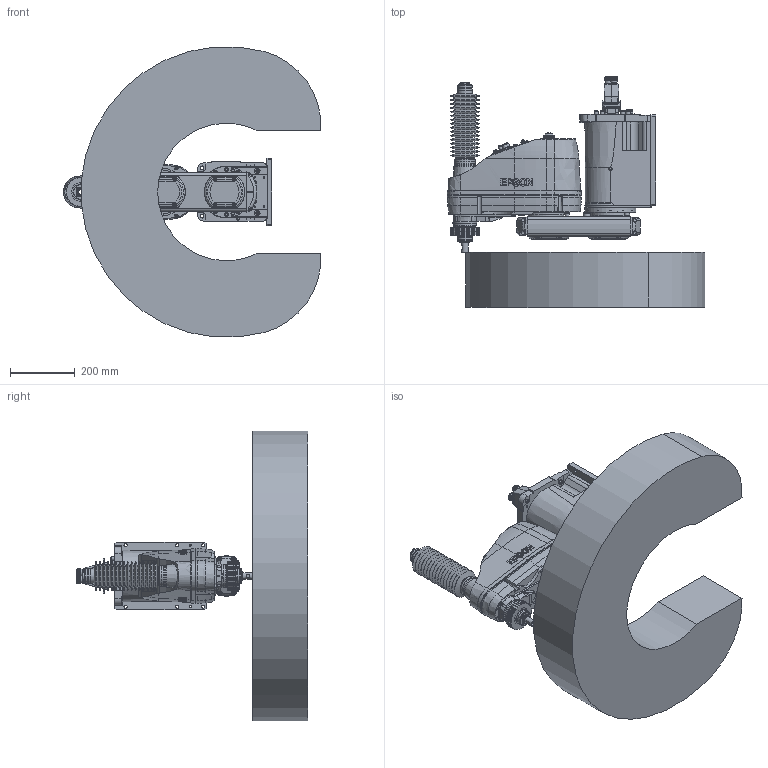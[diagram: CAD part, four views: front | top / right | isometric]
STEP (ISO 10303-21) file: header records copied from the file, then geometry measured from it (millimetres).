
FILE_DESCRIPTION( ( 'STEP AP214' ), '1' );
FILE_NAME( 'C:/Users/9607552/Desktop/GX8-B452CW_straight.stp', '2023-07-07T02:11:31', ( '' ), ( '' ), ' ', 'PARTsolutions', ' ' );
FILE_SCHEMA( ( 'AUTOMOTIVE_DESIGN { 1 0 10303 214 1 1 1 1 }' ) );
Length unit declared in the file: millimetre
Products named in the file (11): GX8-B452CWS-W; _B452CW_BASE; _B452CR; _B452CR_1; _B452CR_2; _B452C_J2; _B452CZA; _1-B-long; _1-B-short; _Straight-B; _GX8-12-B_WS
Assembly tree (12 placements, depth 2):
  GX8-B452CWS-W
    _B452CW_BASE
    _B452CR
    _B452CR_1  x2
    _B452CR_2  x2
    _B452C_J2
    _B452CZA
    _1-B-long
    _1-B-short
    _Straight-B
    _GX8-12-B_WS
Bounding box: 796.98 x 714.85 x 896.58 mm (x, y, z)
Volume: 86418762.3 mm3; surface area: 2800387.8 mm2
Topology: 12 solids, 16 shells, 3363 faces, 8135 edges, 5262 vertices
Faces by surface type: plane 1638, cylinder 1089, cone 432, torus 162, bspline 37, sphere 5
Full cylindrical faces by diameter (mm): 1 x48, 1.18 x55, 2.261 x4, 2.459 x12, 3 x32, 3.242 x18, 3.3 x4, 3.9 x4, 4.2 x8, 4.5 x12, 4.8 x5, 5.34 x4, 5.5 x17, 6 x6, 6.2 x4, 6.647 x4, 6.8 x2, 7 x42, 8 x5, 8.5 x4, 9 x24, 10 x24, 11 x4, 11.2 x5, 11.5 x1, 12 x5, 12.2 x1, 12.25 x1, 13 x7, 13.2 x12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
Entity records: 119611 total; most frequent: CARTESIAN_POINT 22273, DIRECTION 14912, ORIENTED_EDGE 13472, EDGE_CURVE 6736, AXIS2_PLACEMENT_3D 5814, VERTEX_POINT 4872, EDGE_LOOP 4548, FACE_OUTER_BOUND 3780
